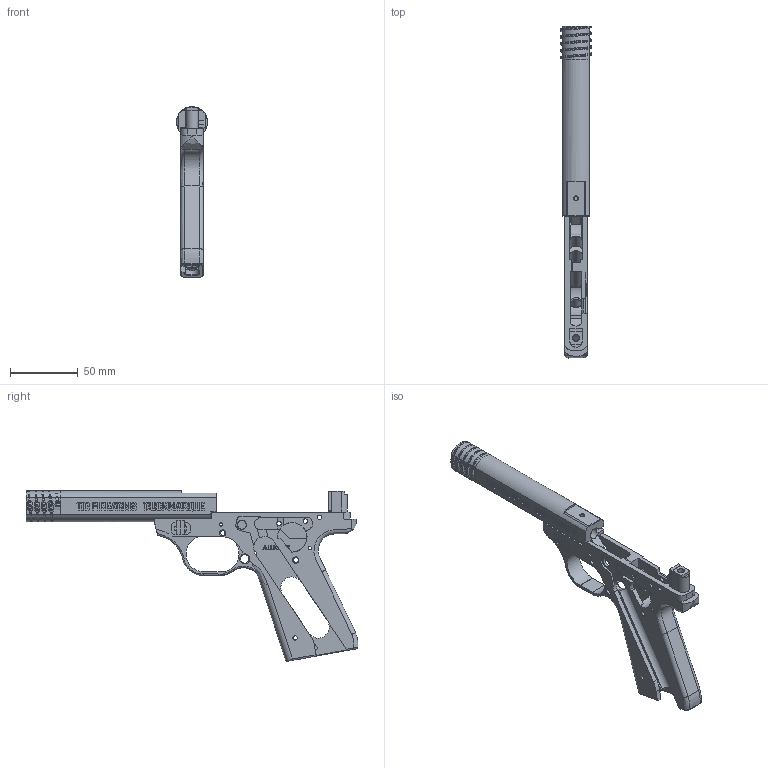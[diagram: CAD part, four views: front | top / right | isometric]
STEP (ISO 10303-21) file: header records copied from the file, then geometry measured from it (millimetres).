
FILE_DESCRIPTION(/* description */ (''),/* implementation_level */ '2;1');
FILE_NAME(/* name */ 'D:/CAD Projects/DBuckmarque Beta/Release/STEP/DBuckmarque V1.0.step',/* time_stamp */ '2022-04-28T13:21:46-07:00',/* author */ (''),/* organization */ (''),/* preprocessor_version */ 'ST-DEVELOPER v18.1',/* originating_system */ 'Autodesk Translation Framework v10.14.0.1471',/* authorisation */ '');
FILE_SCHEMA (('AUTOMOTIVE_DESIGN { 1 0 10303 214 3 1 1 }'));
Products named in the file (3): Browning Buckmark v3; Core Frame; Add On Printable Pieces
Assembly tree (2 placements, depth 2):
  Browning Buckmark v3
    Core Frame
    Add On Printable Pieces
Bounding box: 23.04 x 244.04 x 125.56 mm (x, y, z)
Volume: 152847.2 mm3; surface area: 66777.4 mm2
Topology: 5 solids, 6 shells, 1340 faces, 3643 edges, 2397 vertices
Faces by surface type: plane 1141, cylinder 134, bspline 48, torus 10, cone 7
Full cylindrical faces by diameter (mm): 1.4 x1, 2.5 x3, 3.15 x2, 3.2 x1, 3.35 x6, 3.5 x2, 3.6 x5, 4.6 x1, 5 x1, 5.9 x1, 6 x1, 6.4 x1, 6.45 x1, 6.5 x3, 6.6 x1, 7.68 x1, 8 x1, 8.2 x1, 8.5 x1, 9.5 x1, 23.048 x4
Entity records: 54170 total; most frequent: CARTESIAN_POINT 20366, ORIENTED_EDGE 7252, DIRECTION 6397, EDGE_CURVE 3626, LINE 3109, VECTOR 3109, VERTEX_POINT 2397, AXIS2_PLACEMENT_3D 1644
